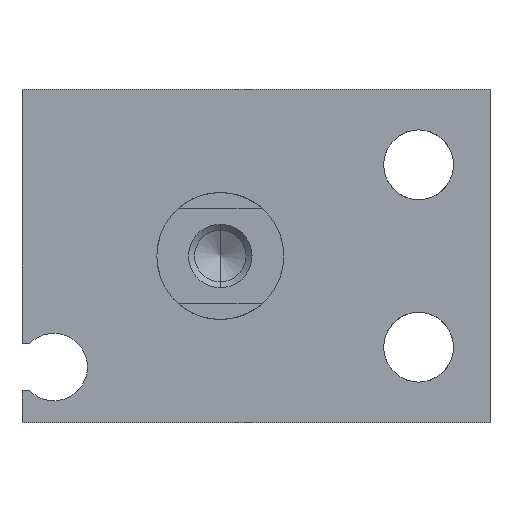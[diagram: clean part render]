
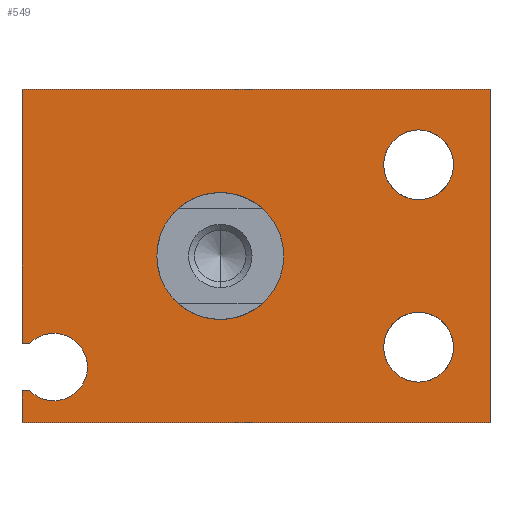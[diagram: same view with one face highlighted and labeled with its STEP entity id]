
A CAD part, left-side view. The second image highlights one B-rep face of the part: STEP entity #549.
In plain terms, the highlighted planar face has unit normal (-1, 0, 0).
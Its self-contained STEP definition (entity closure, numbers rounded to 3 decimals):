
#12 = LINE ( 'NONE', #1735, #1474 ) ;
#40 = DIRECTION ( 'NONE',  ( 0., -1., 0. ) ) ;
#65 = VERTEX_POINT ( 'NONE', #671 ) ;
#80 = DIRECTION ( 'NONE',  ( -1., 0., 0. ) ) ;
#122 = AXIS2_PLACEMENT_3D ( 'NONE', #649, #2118, #3076 ) ;
#152 = CARTESIAN_POINT ( 'NONE',  ( 0., 12.005, -8.5 ) ) ;
#154 = EDGE_LOOP ( 'NONE', ( #1270, #2501 ) ) ;
#170 = AXIS2_PLACEMENT_3D ( 'NONE', #254, #1284, #1039 ) ;
#171 = ORIENTED_EDGE ( 'NONE', *, *, #485, .T. ) ;
#173 = LINE ( 'NONE', #412, #2542 ) ;
#183 = DIRECTION ( 'NONE',  ( -1., 0., 0. ) ) ;
#198 = AXIS2_PLACEMENT_3D ( 'NONE', #2296, #1109, #2061 ) ;
#254 = CARTESIAN_POINT ( 'NONE',  ( 0., 10.5, -7. ) ) ;
#261 = CIRCLE ( 'NONE', #451, 2.2 ) ;
#300 = EDGE_CURVE ( 'NONE', #2417, #2695, #1132, .T. ) ;
#307 = CARTESIAN_POINT ( 'NONE',  ( 0., 10.5, -9.125 ) ) ;
#320 = EDGE_CURVE ( 'NONE', #2500, #2417, #173, .T. ) ;
#340 = VERTEX_POINT ( 'NONE', #1832 ) ;
#382 = EDGE_CURVE ( 'NONE', #2208, #2945, #1548, .T. ) ;
#412 = CARTESIAN_POINT ( 'NONE',  ( 0., 12.5, -10.5 ) ) ;
#436 = AXIS2_PLACEMENT_3D ( 'NONE', #934, #719, #2166 ) ;
#451 = AXIS2_PLACEMENT_3D ( 'NONE', #1408, #183, #454 ) ;
#454 = DIRECTION ( 'NONE',  ( 0., 0., 1. ) ) ;
#466 = ORIENTED_EDGE ( 'NONE', *, *, #2115, .T. ) ;
#467 = CARTESIAN_POINT ( 'NONE',  ( 0., 10.5, -7. ) ) ;
#485 = EDGE_CURVE ( 'NONE', #999, #340, #490, .T. ) ;
#490 = LINE ( 'NONE', #1747, #2477 ) ;
#510 = CIRCLE ( 'NONE', #3018, 2.2 ) ;
#513 = CARTESIAN_POINT ( 'NONE',  ( 0., -12.5, 5.75 ) ) ;
#549 = ADVANCED_FACE ( 'NONE', ( #1531, #612, #2260, #1064 ), #1553, .T. ) ;
#563 = CARTESIAN_POINT ( 'NONE',  ( 0., -12.5, 3.55 ) ) ;
#601 = CARTESIAN_POINT ( 'NONE',  ( 0., 10.5, -7. ) ) ;
#607 = ORIENTED_EDGE ( 'NONE', *, *, #1703, .T. ) ;
#612 = FACE_BOUND ( 'NONE', #3101, .T. ) ;
#644 = CIRCLE ( 'NONE', #2410, 2.125 ) ;
#649 = CARTESIAN_POINT ( 'NONE',  ( 0., 10.5, -7. ) ) ;
#671 = CARTESIAN_POINT ( 'NONE',  ( 0., 12.5, -5.5 ) ) ;
#690 = ORIENTED_EDGE ( 'NONE', *, *, #2060, .F. ) ;
#719 = DIRECTION ( 'NONE',  ( 1., 0., 0. ) ) ;
#747 = DIRECTION ( 'NONE',  ( 1., 0., 0. ) ) ;
#774 = DIRECTION ( 'NONE',  ( 0., 0., 1. ) ) ;
#825 = VERTEX_POINT ( 'NONE', #1312 ) ;
#841 = CARTESIAN_POINT ( 'NONE',  ( 0., 0., 4. ) ) ;
#863 = VERTEX_POINT ( 'NONE', #1521 ) ;
#885 = DIRECTION ( 'NONE',  ( 0., 0., -1. ) ) ;
#934 = CARTESIAN_POINT ( 'NONE',  ( 0., 0., 0. ) ) ;
#935 = VECTOR ( 'NONE', #2214, 1000. ) ;
#937 = VECTOR ( 'NONE', #2356, 1000. ) ;
#999 = VERTEX_POINT ( 'NONE', #152 ) ;
#1039 = DIRECTION ( 'NONE',  ( 0., 0., 1. ) ) ;
#1040 = CARTESIAN_POINT ( 'NONE',  ( 0., 12.5, 10.5 ) ) ;
#1064 = FACE_BOUND ( 'NONE', #2240, .T. ) ;
#1109 = DIRECTION ( 'NONE',  ( -1., 0., 0. ) ) ;
#1110 = DIRECTION ( 'NONE',  ( 0., 0., 1. ) ) ;
#1132 = LINE ( 'NONE', #1149, #937 ) ;
#1149 = CARTESIAN_POINT ( 'NONE',  ( 0., -17., -10.5 ) ) ;
#1156 = CARTESIAN_POINT ( 'NONE',  ( 0., 12.005, -5.5 ) ) ;
#1167 = VECTOR ( 'NONE', #2651, 1000. ) ;
#1183 = CARTESIAN_POINT ( 'NONE',  ( 0., -12.5, 7.95 ) ) ;
#1185 = EDGE_CURVE ( 'NONE', #2898, #2512, #2053, .T. ) ;
#1197 = CIRCLE ( 'NONE', #122, 2.125 ) ;
#1248 = DIRECTION ( 'NONE',  ( 0., 1., 0. ) ) ;
#1270 = ORIENTED_EDGE ( 'NONE', *, *, #3004, .F. ) ;
#1284 = DIRECTION ( 'NONE',  ( -1., 0., 0. ) ) ;
#1312 = CARTESIAN_POINT ( 'NONE',  ( 0., -12.5, -7.95 ) ) ;
#1315 = EDGE_CURVE ( 'NONE', #65, #1990, #12, .T. ) ;
#1344 = DIRECTION ( 'NONE',  ( -1., 0., 0. ) ) ;
#1365 = ORIENTED_EDGE ( 'NONE', *, *, #2843, .T. ) ;
#1393 = CARTESIAN_POINT ( 'NONE',  ( 0., -17., 10.5 ) ) ;
#1408 = CARTESIAN_POINT ( 'NONE',  ( 0., -12.5, 5.75 ) ) ;
#1452 = AXIS2_PLACEMENT_3D ( 'NONE', #2687, #80, #2718 ) ;
#1463 = DIRECTION ( 'NONE',  ( -1., 0., 0. ) ) ;
#1474 = VECTOR ( 'NONE', #40, 1000. ) ;
#1483 = ORIENTED_EDGE ( 'NONE', *, *, #320, .T. ) ;
#1501 = ORIENTED_EDGE ( 'NONE', *, *, #2728, .F. ) ;
#1521 = CARTESIAN_POINT ( 'NONE',  ( 0., -12.5, -3.55 ) ) ;
#1531 = FACE_OUTER_BOUND ( 'NONE', #2693, .T. ) ;
#1548 = CIRCLE ( 'NONE', #170, 2.125 ) ;
#1553 = PLANE ( 'NONE',  #2169 ) ;
#1611 = CIRCLE ( 'NONE', #198, 2.2 ) ;
#1686 = ORIENTED_EDGE ( 'NONE', *, *, #1315, .T. ) ;
#1695 = CARTESIAN_POINT ( 'NONE',  ( 0., 12.5, -8.5 ) ) ;
#1703 = EDGE_CURVE ( 'NONE', #1941, #65, #2366, .T. ) ;
#1705 = CIRCLE ( 'NONE', #1452, 2.2 ) ;
#1735 = CARTESIAN_POINT ( 'NONE',  ( 0., 12.5, -5.5 ) ) ;
#1747 = CARTESIAN_POINT ( 'NONE',  ( 0., 12.005, -8.5 ) ) ;
#1774 = ORIENTED_EDGE ( 'NONE', *, *, #300, .T. ) ;
#1776 = LINE ( 'NONE', #2733, #935 ) ;
#1821 = CARTESIAN_POINT ( 'NONE',  ( 0., 0., -4. ) ) ;
#1832 = CARTESIAN_POINT ( 'NONE',  ( 0., 12.5, -8.5 ) ) ;
#1871 = ORIENTED_EDGE ( 'NONE', *, *, #382, .F. ) ;
#1905 = ORIENTED_EDGE ( 'NONE', *, *, #3100, .F. ) ;
#1921 = ORIENTED_EDGE ( 'NONE', *, *, #2423, .F. ) ;
#1924 = DIRECTION ( 'NONE',  ( -1., 0., 0. ) ) ;
#1941 = VERTEX_POINT ( 'NONE', #1040 ) ;
#1990 = VERTEX_POINT ( 'NONE', #1156 ) ;
#2035 = CARTESIAN_POINT ( 'NONE',  ( 0., -17., -10.5 ) ) ;
#2047 = CIRCLE ( 'NONE', #2254, 4. ) ;
#2053 = CIRCLE ( 'NONE', #436, 4. ) ;
#2060 = EDGE_CURVE ( 'NONE', #999, #2208, #644, .T. ) ;
#2061 = DIRECTION ( 'NONE',  ( 0., 0., 1. ) ) ;
#2067 = CARTESIAN_POINT ( 'NONE',  ( 0., 12.5, 10.5 ) ) ;
#2070 = ORIENTED_EDGE ( 'NONE', *, *, #1185, .T. ) ;
#2084 = CARTESIAN_POINT ( 'NONE',  ( 0., 12.5, -10.5 ) ) ;
#2100 = DIRECTION ( 'NONE',  ( 0., -1., 0. ) ) ;
#2115 = EDGE_CURVE ( 'NONE', #2512, #2898, #2047, .T. ) ;
#2118 = DIRECTION ( 'NONE',  ( -1., 0., 0. ) ) ;
#2127 = LINE ( 'NONE', #1695, #1167 ) ;
#2140 = DIRECTION ( 'NONE',  ( 0., 0., -1. ) ) ;
#2166 = DIRECTION ( 'NONE',  ( 0., 0., -1. ) ) ;
#2169 = AXIS2_PLACEMENT_3D ( 'NONE', #601, #1344, #1110 ) ;
#2208 = VERTEX_POINT ( 'NONE', #307 ) ;
#2211 = ORIENTED_EDGE ( 'NONE', *, *, #2292, .T. ) ;
#2213 = VERTEX_POINT ( 'NONE', #563 ) ;
#2214 = DIRECTION ( 'NONE',  ( 0., 1., 0. ) ) ;
#2224 = EDGE_CURVE ( 'NONE', #825, #863, #1705, .T. ) ;
#2240 = EDGE_LOOP ( 'NONE', ( #1501, #1905 ) ) ;
#2254 = AXIS2_PLACEMENT_3D ( 'NONE', #2849, #747, #2140 ) ;
#2260 = FACE_BOUND ( 'NONE', #154, .T. ) ;
#2292 = EDGE_CURVE ( 'NONE', #2695, #1941, #1776, .T. ) ;
#2295 = VECTOR ( 'NONE', #885, 1000. ) ;
#2296 = CARTESIAN_POINT ( 'NONE',  ( 0., -12.5, -5.75 ) ) ;
#2356 = DIRECTION ( 'NONE',  ( 0., 0., 1. ) ) ;
#2366 = LINE ( 'NONE', #2067, #2295 ) ;
#2407 = VERTEX_POINT ( 'NONE', #1183 ) ;
#2410 = AXIS2_PLACEMENT_3D ( 'NONE', #467, #1924, #2904 ) ;
#2417 = VERTEX_POINT ( 'NONE', #2035 ) ;
#2423 = EDGE_CURVE ( 'NONE', #2945, #1990, #1197, .T. ) ;
#2477 = VECTOR ( 'NONE', #1248, 1000. ) ;
#2500 = VERTEX_POINT ( 'NONE', #2084 ) ;
#2501 = ORIENTED_EDGE ( 'NONE', *, *, #2224, .F. ) ;
#2512 = VERTEX_POINT ( 'NONE', #841 ) ;
#2542 = VECTOR ( 'NONE', #2100, 1000. ) ;
#2651 = DIRECTION ( 'NONE',  ( 0., 0., -1. ) ) ;
#2687 = CARTESIAN_POINT ( 'NONE',  ( 0., -12.5, -5.75 ) ) ;
#2693 = EDGE_LOOP ( 'NONE', ( #1483, #1774, #2211, #607, #1686, #1921, #1871, #690, #171, #1365 ) ) ;
#2695 = VERTEX_POINT ( 'NONE', #1393 ) ;
#2718 = DIRECTION ( 'NONE',  ( 0., 0., 1. ) ) ;
#2728 = EDGE_CURVE ( 'NONE', #2407, #2213, #261, .T. ) ;
#2733 = CARTESIAN_POINT ( 'NONE',  ( 0., -17., 10.5 ) ) ;
#2843 = EDGE_CURVE ( 'NONE', #340, #2500, #2127, .T. ) ;
#2849 = CARTESIAN_POINT ( 'NONE',  ( 0., 0., 0. ) ) ;
#2898 = VERTEX_POINT ( 'NONE', #1821 ) ;
#2904 = DIRECTION ( 'NONE',  ( 0., 0., 1. ) ) ;
#2945 = VERTEX_POINT ( 'NONE', #2995 ) ;
#2995 = CARTESIAN_POINT ( 'NONE',  ( 0., 10.5, -4.875 ) ) ;
#3004 = EDGE_CURVE ( 'NONE', #863, #825, #1611, .T. ) ;
#3018 = AXIS2_PLACEMENT_3D ( 'NONE', #513, #1463, #774 ) ;
#3076 = DIRECTION ( 'NONE',  ( 0., 0., 1. ) ) ;
#3100 = EDGE_CURVE ( 'NONE', #2213, #2407, #510, .T. ) ;
#3101 = EDGE_LOOP ( 'NONE', ( #2070, #466 ) ) ;
